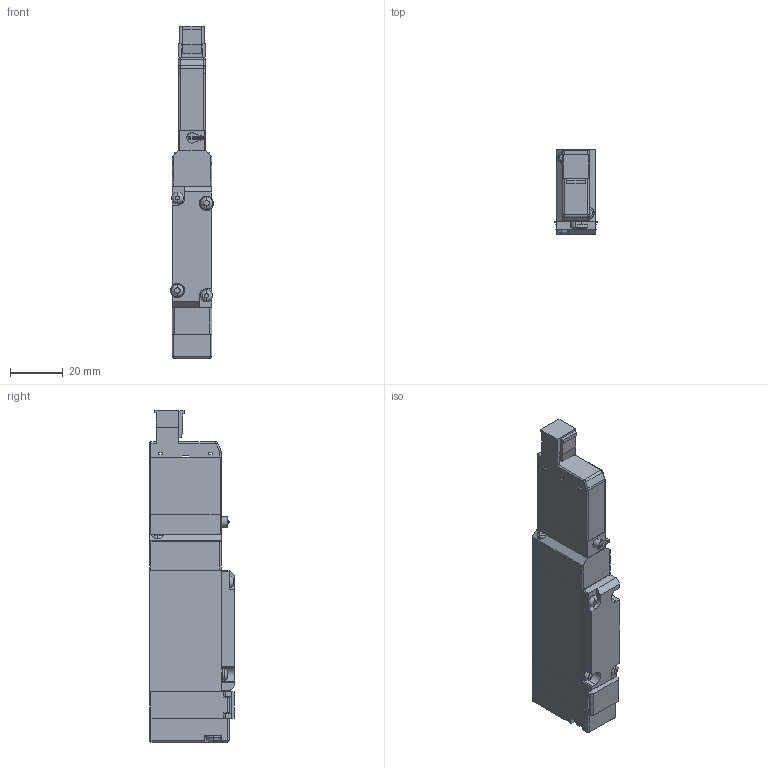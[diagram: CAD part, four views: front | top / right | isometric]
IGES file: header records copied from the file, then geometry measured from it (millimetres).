
Start section: ------------------------------------------------------------------------
Global section: file name: D:\ICADMX\tmp\trans3d_spg\CVICAD02.7120.F15T1-R-A1-PS_16955.igs; native system: spGate; preprocessor: ver12.6.6; author: Unknown; organization: Unknown; date: 210712.184941; units: millimetre
Bounding box: 16.2 x 32 x 125.5 mm (x, y, z)
Volume: 45522 mm3; surface area: 17751.4 mm2
Topology: 7 solids, 7 shells, 381 faces, 1000 edges, 635 vertices
Faces by surface type: bspline 381
